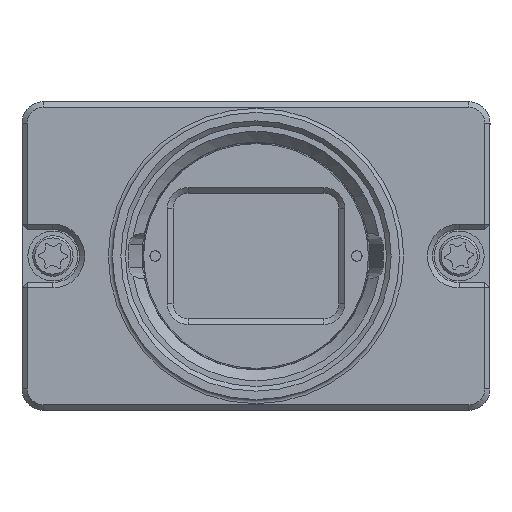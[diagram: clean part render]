
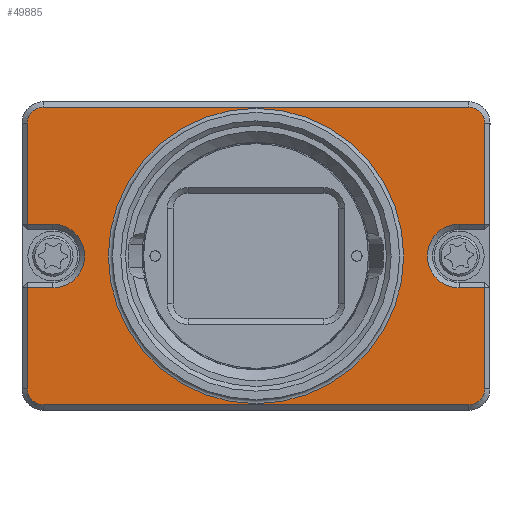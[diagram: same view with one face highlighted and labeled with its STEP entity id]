
A CAD part, front view. The second image highlights one B-rep face of the part: STEP entity #49885.
In plain terms, the highlighted planar face has unit normal (0, -1, 0).
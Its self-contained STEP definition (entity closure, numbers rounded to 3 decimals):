
#696=FACE_BOUND('',#6374,.T.);
#1950=PLANE('',#52720);
#3694=FACE_OUTER_BOUND('',#6373,.T.);
#6373=EDGE_LOOP('',(#33047,#33048,#33049,#33050,#33051,#33052,#33053,#33054,
#33055,#33056,#33057,#33058,#33059,#33060,#33061,#33062));
#6374=EDGE_LOOP('',(#33063,#33064));
#9338=LINE('',#68879,#14499);
#9339=LINE('',#68881,#14500);
#9340=LINE('',#68885,#14501);
#9341=LINE('',#68887,#14502);
#9342=LINE('',#68891,#14503);
#9343=LINE('',#68895,#14504);
#9344=LINE('',#68897,#14505);
#9345=LINE('',#68901,#14506);
#9346=LINE('',#68903,#14507);
#9347=LINE('',#68907,#14508);
#14499=VECTOR('',#56419,10.);
#14500=VECTOR('',#56420,10.);
#14501=VECTOR('',#56423,10.);
#14502=VECTOR('',#56424,10.);
#14503=VECTOR('',#56427,10.);
#14504=VECTOR('',#56430,10.);
#14505=VECTOR('',#56431,10.);
#14506=VECTOR('',#56434,10.);
#14507=VECTOR('',#56435,10.);
#14508=VECTOR('',#56438,10.);
#19682=CIRCLE('',#52717,13.88);
#19683=CIRCLE('',#52718,13.88);
#19685=CIRCLE('',#52721,3.);
#19686=CIRCLE('',#52722,1.5);
#19687=CIRCLE('',#52723,1.5);
#19688=CIRCLE('',#52724,3.);
#19689=CIRCLE('',#52725,1.5);
#19690=CIRCLE('',#52726,1.5);
#20781=VERTEX_POINT('',#68870);
#20782=VERTEX_POINT('',#68872);
#20783=VERTEX_POINT('',#68877);
#20784=VERTEX_POINT('',#68878);
#20785=VERTEX_POINT('',#68880);
#20786=VERTEX_POINT('',#68882);
#20787=VERTEX_POINT('',#68884);
#20788=VERTEX_POINT('',#68886);
#20789=VERTEX_POINT('',#68888);
#20790=VERTEX_POINT('',#68890);
#20791=VERTEX_POINT('',#68892);
#20792=VERTEX_POINT('',#68894);
#20793=VERTEX_POINT('',#68896);
#20794=VERTEX_POINT('',#68898);
#20795=VERTEX_POINT('',#68900);
#20796=VERTEX_POINT('',#68902);
#20797=VERTEX_POINT('',#68904);
#20798=VERTEX_POINT('',#68906);
#25592=EDGE_CURVE('',#20781,#20782,#19682,.T.);
#25593=EDGE_CURVE('',#20782,#20781,#19683,.T.);
#25595=EDGE_CURVE('',#20783,#20784,#9338,.T.);
#25596=EDGE_CURVE('',#20785,#20783,#9339,.T.);
#25597=EDGE_CURVE('',#20786,#20785,#19685,.T.);
#25598=EDGE_CURVE('',#20787,#20786,#9340,.T.);
#25599=EDGE_CURVE('',#20788,#20787,#9341,.T.);
#25600=EDGE_CURVE('',#20789,#20788,#19686,.T.);
#25601=EDGE_CURVE('',#20790,#20789,#9342,.T.);
#25602=EDGE_CURVE('',#20791,#20790,#19687,.T.);
#25603=EDGE_CURVE('',#20792,#20791,#9343,.T.);
#25604=EDGE_CURVE('',#20793,#20792,#9344,.T.);
#25605=EDGE_CURVE('',#20794,#20793,#19688,.T.);
#25606=EDGE_CURVE('',#20795,#20794,#9345,.T.);
#25607=EDGE_CURVE('',#20796,#20795,#9346,.T.);
#25608=EDGE_CURVE('',#20797,#20796,#19689,.T.);
#25609=EDGE_CURVE('',#20798,#20797,#9347,.T.);
#25610=EDGE_CURVE('',#20784,#20798,#19690,.T.);
#33047=ORIENTED_EDGE('',*,*,#25595,.F.);
#33048=ORIENTED_EDGE('',*,*,#25596,.F.);
#33049=ORIENTED_EDGE('',*,*,#25597,.F.);
#33050=ORIENTED_EDGE('',*,*,#25598,.F.);
#33051=ORIENTED_EDGE('',*,*,#25599,.F.);
#33052=ORIENTED_EDGE('',*,*,#25600,.F.);
#33053=ORIENTED_EDGE('',*,*,#25601,.F.);
#33054=ORIENTED_EDGE('',*,*,#25602,.F.);
#33055=ORIENTED_EDGE('',*,*,#25603,.F.);
#33056=ORIENTED_EDGE('',*,*,#25604,.F.);
#33057=ORIENTED_EDGE('',*,*,#25605,.F.);
#33058=ORIENTED_EDGE('',*,*,#25606,.F.);
#33059=ORIENTED_EDGE('',*,*,#25607,.F.);
#33060=ORIENTED_EDGE('',*,*,#25608,.F.);
#33061=ORIENTED_EDGE('',*,*,#25609,.F.);
#33062=ORIENTED_EDGE('',*,*,#25610,.F.);
#33063=ORIENTED_EDGE('',*,*,#25593,.F.);
#33064=ORIENTED_EDGE('',*,*,#25592,.F.);
#49885=ADVANCED_FACE('',(#3694,#696),#1950,.T.);
#52717=AXIS2_PLACEMENT_3D('',#68873,#56411,#56412);
#52718=AXIS2_PLACEMENT_3D('',#68874,#56413,#56414);
#52720=AXIS2_PLACEMENT_3D('',#68876,#56417,#56418);
#52721=AXIS2_PLACEMENT_3D('',#68883,#56421,#56422);
#52722=AXIS2_PLACEMENT_3D('',#68889,#56425,#56426);
#52723=AXIS2_PLACEMENT_3D('',#68893,#56428,#56429);
#52724=AXIS2_PLACEMENT_3D('',#68899,#56432,#56433);
#52725=AXIS2_PLACEMENT_3D('',#68905,#56436,#56437);
#52726=AXIS2_PLACEMENT_3D('',#68908,#56439,#56440);
#56411=DIRECTION('center_axis',(0.,-1.,0.));
#56412=DIRECTION('ref_axis',(1.,0.,0.));
#56413=DIRECTION('center_axis',(0.,-1.,0.));
#56414=DIRECTION('ref_axis',(1.,0.,0.));
#56417=DIRECTION('center_axis',(0.,-1.,0.));
#56418=DIRECTION('ref_axis',(-1.,0.,0.));
#56419=DIRECTION('',(0.,0.,1.));
#56420=DIRECTION('',(-1.,0.,0.));
#56421=DIRECTION('center_axis',(0.,-1.,0.));
#56422=DIRECTION('ref_axis',(1.,0.,0.));
#56423=DIRECTION('',(1.,0.,0.));
#56424=DIRECTION('',(0.,0.,1.));
#56425=DIRECTION('center_axis',(0.,1.,0.));
#56426=DIRECTION('ref_axis',(-0.707,0.,-0.707));
#56427=DIRECTION('',(-1.,0.,0.));
#56428=DIRECTION('center_axis',(0.,1.,0.));
#56429=DIRECTION('ref_axis',(0.707,0.,-0.707));
#56430=DIRECTION('',(0.,0.,-1.));
#56431=DIRECTION('',(1.,0.,0.));
#56432=DIRECTION('center_axis',(0.,-1.,0.));
#56433=DIRECTION('ref_axis',(-1.,0.,0.));
#56434=DIRECTION('',(-1.,0.,0.));
#56435=DIRECTION('',(0.,0.,-1.));
#56436=DIRECTION('center_axis',(0.,1.,0.));
#56437=DIRECTION('ref_axis',(0.707,0.,0.707));
#56438=DIRECTION('',(1.,0.,0.));
#56439=DIRECTION('center_axis',(0.,1.,0.));
#56440=DIRECTION('ref_axis',(-0.707,0.,0.707));
#68870=CARTESIAN_POINT('',(0.,-9.749,13.88));
#68872=CARTESIAN_POINT('',(-13.88,-9.749,0.));
#68873=CARTESIAN_POINT('Origin',(0.,-9.749,
0.));
#68874=CARTESIAN_POINT('Origin',(0.,-9.749,
0.));
#68876=CARTESIAN_POINT('Origin',(19.1,-9.749,0.));
#68877=CARTESIAN_POINT('',(-21.5,-9.749,3.));
#68878=CARTESIAN_POINT('',(-21.5,-9.749,12.5));
#68879=CARTESIAN_POINT('',(-21.5,-9.749,-7.25));
#68880=CARTESIAN_POINT('',(-19.1,-9.749,3.));
#68881=CARTESIAN_POINT('',(-1.45,-9.749,3.));
#68882=CARTESIAN_POINT('',(-19.1,-9.749,-3.));
#68883=CARTESIAN_POINT('Origin',(-19.1,-9.749,0.));
#68884=CARTESIAN_POINT('',(-21.5,-9.749,-3.));
#68885=CARTESIAN_POINT('',(0.,-9.749,-3.));
#68886=CARTESIAN_POINT('',(-21.5,-9.749,-12.5));
#68887=CARTESIAN_POINT('',(-21.5,-9.749,-7.25));
#68888=CARTESIAN_POINT('',(-20.,-9.749,-14.));
#68889=CARTESIAN_POINT('Origin',(-20.,-9.749,-12.5));
#68890=CARTESIAN_POINT('',(20.,-9.749,-14.));
#68891=CARTESIAN_POINT('',(20.55,-9.749,-14.));
#68892=CARTESIAN_POINT('',(21.5,-9.749,-12.5));
#68893=CARTESIAN_POINT('Origin',(20.,-9.749,-12.5));
#68894=CARTESIAN_POINT('',(21.5,-9.749,-3.));
#68895=CARTESIAN_POINT('',(21.5,-9.749,7.25));
#68896=CARTESIAN_POINT('',(19.1,-9.749,-3.));
#68897=CARTESIAN_POINT('',(20.55,-9.749,-3.));
#68898=CARTESIAN_POINT('',(19.1,-9.749,3.));
#68899=CARTESIAN_POINT('Origin',(19.1,-9.749,0.));
#68900=CARTESIAN_POINT('',(21.5,-9.749,3.));
#68901=CARTESIAN_POINT('',(19.1,-9.749,3.));
#68902=CARTESIAN_POINT('',(21.5,-9.749,12.5));
#68903=CARTESIAN_POINT('',(21.5,-9.749,7.25));
#68904=CARTESIAN_POINT('',(20.,-9.749,14.));
#68905=CARTESIAN_POINT('Origin',(20.,-9.749,12.5));
#68906=CARTESIAN_POINT('',(-20.,-9.749,14.));
#68907=CARTESIAN_POINT('',(-1.45,-9.749,14.));
#68908=CARTESIAN_POINT('Origin',(-20.,-9.749,12.5));
